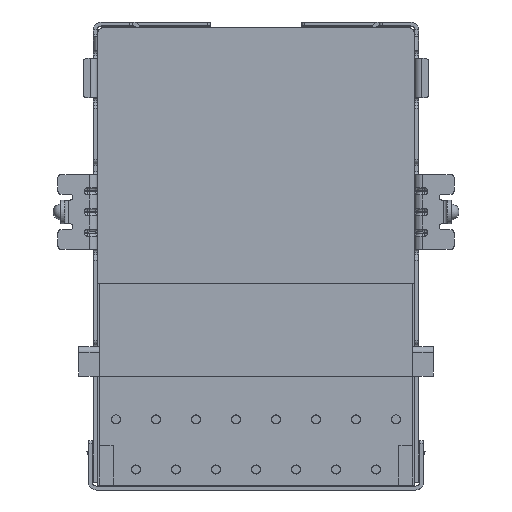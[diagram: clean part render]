
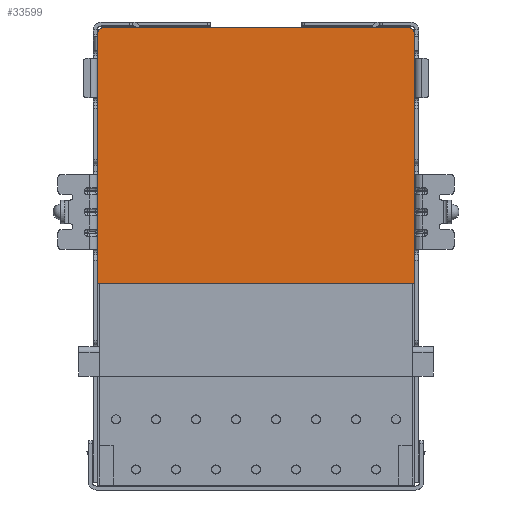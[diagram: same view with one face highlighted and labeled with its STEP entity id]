
A CAD part, front view. The second image highlights one B-rep face of the part: STEP entity #33599.
In plain terms, the highlighted planar face has unit normal (0, -1, 0).
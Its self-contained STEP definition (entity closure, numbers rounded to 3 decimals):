
#1288=DIRECTION('',(0.,0.,1.));
#1289=VECTOR('',#1288,12.7);
#1290=CARTESIAN_POINT('',(-8.02,0.095,
-33.55));
#1291=LINE('',#1290,#1289);
#1292=CARTESIAN_POINT('',(-7.77,0.095,
-20.85));
#1293=DIRECTION('',(0.,1.,0.));
#1294=DIRECTION('',(-1.,0.,0.));
#1295=AXIS2_PLACEMENT_3D('',#1292,#1293,#1294);
#1297=DIRECTION('',(1.,0.,0.));
#1298=VECTOR('',#1297,15.54);
#1299=CARTESIAN_POINT('',(-7.77,0.095,
-20.6));
#1300=LINE('',#1299,#1298);
#1301=CARTESIAN_POINT('',(7.77,0.095,
-20.85));
#1302=DIRECTION('',(0.,1.,0.));
#1303=DIRECTION('',(0.,0.,1.));
#1304=AXIS2_PLACEMENT_3D('',#1301,#1302,#1303);
#1306=DIRECTION('',(0.,0.,-1.));
#1307=VECTOR('',#1306,12.7);
#1308=CARTESIAN_POINT('',(8.02,0.095,
-20.85));
#1309=LINE('',#1308,#1307);
#1310=DIRECTION('',(-1.,0.,0.));
#1311=VECTOR('',#1310,16.04);
#1312=CARTESIAN_POINT('',(8.02,0.095,
-33.55));
#1313=LINE('',#1312,#1311);
#26288=CARTESIAN_POINT('',(-8.02,0.095,
-33.55));
#26289=VERTEX_POINT('',#26288);
#26290=CARTESIAN_POINT('',(8.02,0.095,
-33.55));
#26291=VERTEX_POINT('',#26290);
#26536=CARTESIAN_POINT('',(-8.02,0.095,
-20.85));
#26537=VERTEX_POINT('',#26536);
#26610=CARTESIAN_POINT('',(7.77,0.095,
-20.6));
#26611=VERTEX_POINT('',#26610);
#26612=CARTESIAN_POINT('',(-7.77,0.095,
-20.6));
#26613=VERTEX_POINT('',#26612);
#26716=CARTESIAN_POINT('',(8.02,0.095,
-20.85));
#26717=VERTEX_POINT('',#26716);
#33584=CARTESIAN_POINT('',(0.,0.095,
-27.075));
#33585=DIRECTION('',(0.,1.,0.));
#33586=DIRECTION('',(0.,0.,-1.));
#33587=AXIS2_PLACEMENT_3D('',#33584,#33585,#33586);
#33588=PLANE('',#33587);
#33589=ORIENTED_EDGE('',*,*,#33489,.T.);
#33590=ORIENTED_EDGE('',*,*,#33578,.T.);
#33591=ORIENTED_EDGE('',*,*,#33393,.T.);
#33593=ORIENTED_EDGE('',*,*,#33592,.T.);
#33594=ORIENTED_EDGE('',*,*,#33274,.T.);
#33596=ORIENTED_EDGE('',*,*,#33595,.T.);
#33597=EDGE_LOOP('',(#33589,#33590,#33591,#33593,#33594,#33596));
#33598=FACE_OUTER_BOUND('',#33597,.F.);
#33599=ADVANCED_FACE('',(#33598),#33588,.F.);
#1296=CIRCLE('',#1295,0.25);
#1305=CIRCLE('',#1304,0.25);
#33274=EDGE_CURVE('',#26717,#26291,#1309,.T.);
#33393=EDGE_CURVE('',#26613,#26611,#1300,.T.);
#33489=EDGE_CURVE('',#26289,#26537,#1291,.T.);
#33578=EDGE_CURVE('',#26537,#26613,#1296,.T.);
#33592=EDGE_CURVE('',#26611,#26717,#1305,.T.);
#33595=EDGE_CURVE('',#26291,#26289,#1313,.T.);
